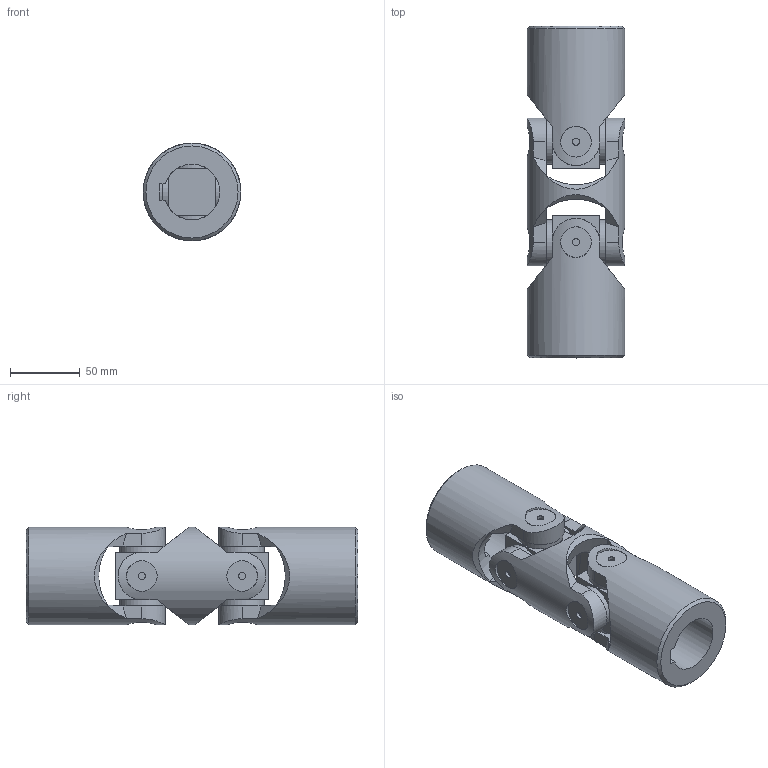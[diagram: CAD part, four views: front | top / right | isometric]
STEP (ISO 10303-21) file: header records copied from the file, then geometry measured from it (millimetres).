
FILE_DESCRIPTION(/* description */ (''),/* implementation_level */ '2;1');
FILE_NAME(/* name */ '\\SRV2016\Societa\Stefano\Disegni 3D\00Catalogo 3D\02Doppi GD-GBD\SGBD402C.stp',/* time_stamp */ '2021-11-23T15:59:56+01:00',/* author */ ('acquisti'),/* organization */ (''),/* preprocessor_version */ 'ST-DEVELOPER v15.6',/* originating_system */ 'Autodesk Inventor 2015',/* authorisation */ '');
FILE_SCHEMA (('AUTOMOTIVE_DESIGN { 1 0 10303 214 3 1 1 }'));
Length unit declared in the file: millimetre
Products named in the file (4): 7G MOD; 7G SFE; 8GB MOC; Ø70_8GBD-00_SGBD4000
Assembly tree (5 placements, depth 2):
  Ø70_8GBD-00_SGBD4000
    7G MOD
    7G SFE  x2
    8GB MOC  x2
Bounding box: 70 x 238 x 70 mm (x, y, z)
Volume: 567806.4 mm3; surface area: 106838 mm2
Topology: 5 solids, 5 shells, 136 faces, 328 edges, 222 vertices
Faces by surface type: plane 76, cylinder 38, cone 18, torus 4
Full cylindrical faces by diameter (mm): 5 x8, 22 x8, 32 x8, 40 x1, 70 x3
Entity records: 3397 total; most frequent: CARTESIAN_POINT 1307, ORIENTED_EDGE 408, DIRECTION 391, EDGE_CURVE 204, AXIS2_PLACEMENT_3D 168, VERTEX_POINT 154, EDGE_LOOP 132, FACE_OUTER_BOUND 92
